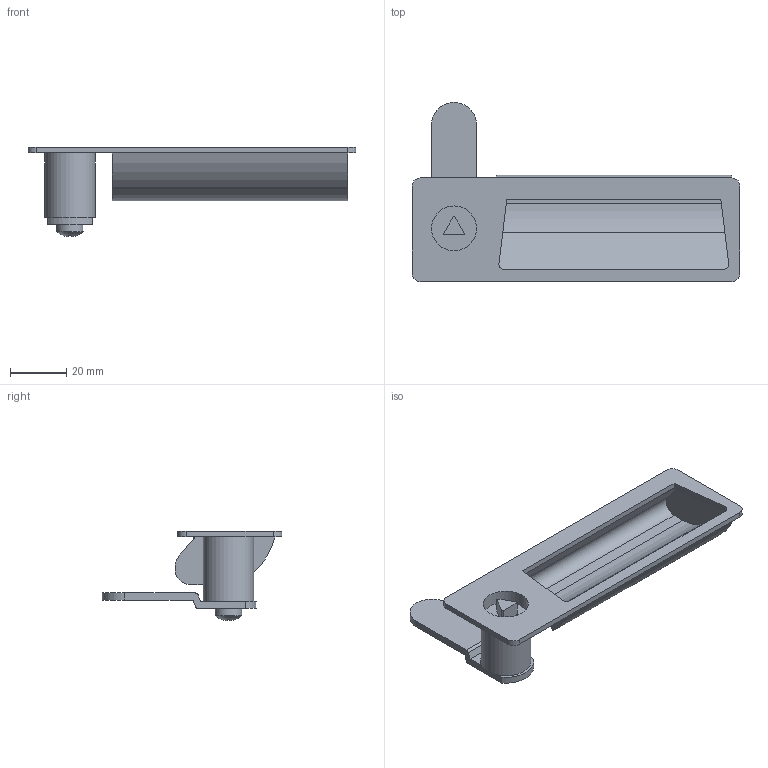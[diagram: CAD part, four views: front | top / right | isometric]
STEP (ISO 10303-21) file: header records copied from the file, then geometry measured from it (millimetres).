
FILE_DESCRIPTION( ( 'STEP AP203' ), '1' );
FILE_NAME( 'C:/Temp/Ganter_Step_05_03_2020/data/3_3/gn731_5/gn731_5_1/Latche with gripping tray GN 731.5-DK-3-45-1-SG (0-20).stp', '2020-03-12T11:49:17', ( 'License CC BY-ND 4.0' ), ( 'CADENAS' ), ' ', 'PARTsolutions', ' ' );
FILE_SCHEMA( ( 'CONFIG_CONTROL_DESIGN' ) );
Length unit declared in the file: millimetre
Products named in the file (3): Latche with gripping tray GN 731.5-DK-3-45-1-SG (0-20); _Latche with gripping tray GN 731.5-DK-3-45-1-SG (0)_1; _Latche with gripping tray GN 731.5-DK-3-45-1-SG (0-20)_2
Assembly tree (2 placements, depth 2):
  Latche with gripping tray GN 731.5-DK-3-45-1-SG (0-20)
    _Latche with gripping tray GN 731.5-DK-3-45-1-SG (0)_1
    _Latche with gripping tray GN 731.5-DK-3-45-1-SG (0-20)_2
Bounding box: 117 x 64 x 31.88 mm (x, y, z)
Volume: 24304.3 mm3; surface area: 20494.7 mm2
Topology: 2 solids, 2 shells, 93 faces, 239 edges, 156 vertices
Faces by surface type: plane 67, cylinder 25, sphere 1
Full cylindrical faces by diameter (mm): 9.5 x1, 16 x1, 18 x1
Entity records: 2889 total; most frequent: DIRECTION 495, CARTESIAN_POINT 481, ORIENTED_EDGE 464, EDGE_CURVE 232, AXIS2_PLACEMENT_3D 167, LINE 161, VECTOR 161, VERTEX_POINT 153
